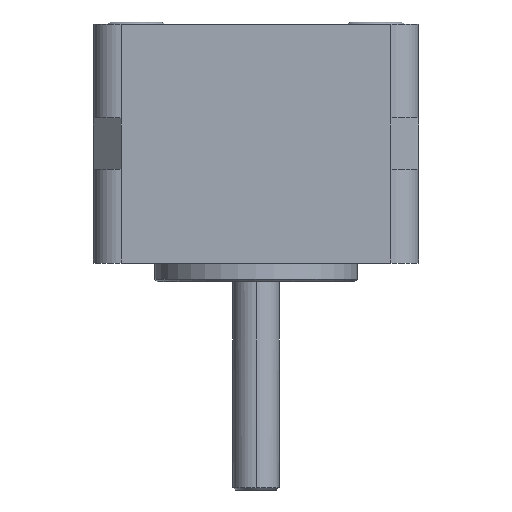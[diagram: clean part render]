
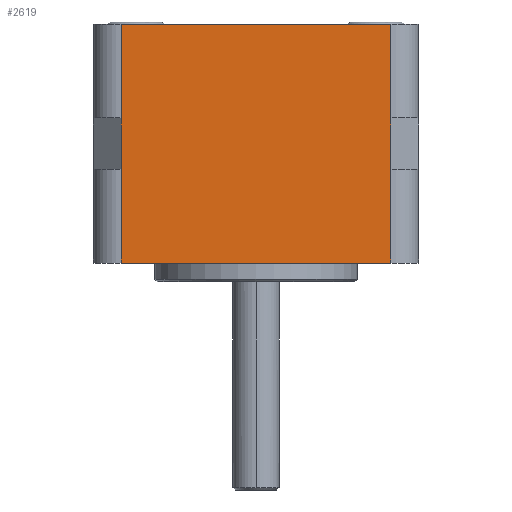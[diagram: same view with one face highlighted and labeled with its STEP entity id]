
A CAD part, front view. The second image highlights one B-rep face of the part: STEP entity #2619.
In plain terms, the highlighted planar face has unit normal (0, -1, 0).
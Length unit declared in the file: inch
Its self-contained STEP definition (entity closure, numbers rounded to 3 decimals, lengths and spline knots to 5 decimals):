
#15=DIRECTION('',(1.,0.,0.));
#16=VECTOR('',#15,1.15378);
#17=CARTESIAN_POINT('',(-0.57689,-0.695,0.));
#18=LINE('',#17,#16);
#187=DIRECTION('',(0.,0.,1.));
#188=VECTOR('',#187,0.22);
#189=CARTESIAN_POINT('',(-0.57689,-0.695,0.4));
#190=LINE('',#189,#188);
#191=DIRECTION('',(0.,0.,1.));
#192=VECTOR('',#191,0.4);
#193=CARTESIAN_POINT('',(-0.57689,-0.695,0.62));
#194=LINE('',#193,#192);
#195=DIRECTION('',(0.,0.,1.));
#196=VECTOR('',#195,0.22);
#197=CARTESIAN_POINT('',(0.57689,-0.695,0.4));
#198=LINE('',#197,#196);
#199=DIRECTION('',(0.,0.,1.));
#200=VECTOR('',#199,0.4);
#201=CARTESIAN_POINT('',(-0.57689,-0.695,0.));
#202=LINE('',#201,#200);
#242=DIRECTION('',(1.,0.,0.));
#243=VECTOR('',#242,1.15378);
#244=CARTESIAN_POINT('',(-0.57689,-0.695,1.02));
#245=LINE('',#244,#243);
#310=DIRECTION('',(0.,0.,1.));
#311=VECTOR('',#310,0.4);
#312=CARTESIAN_POINT('',(0.57689,-0.695,0.));
#313=LINE('',#312,#311);
#319=DIRECTION('',(0.,0.,1.));
#320=VECTOR('',#319,0.4);
#321=CARTESIAN_POINT('',(0.57689,-0.695,0.62));
#322=LINE('',#321,#320);
#1864=CARTESIAN_POINT('',(-0.57689,-0.695,0.));
#1865=VERTEX_POINT('',#1864);
#1866=CARTESIAN_POINT('',(0.57689,-0.695,0.));
#1867=VERTEX_POINT('',#1866);
#1880=CARTESIAN_POINT('',(-0.57689,-0.695,1.02));
#1881=VERTEX_POINT('',#1880);
#1882=CARTESIAN_POINT('',(0.57689,-0.695,1.02));
#1883=VERTEX_POINT('',#1882);
#1956=CARTESIAN_POINT('',(-0.57689,-0.695,0.4));
#1957=VERTEX_POINT('',#1956);
#1958=CARTESIAN_POINT('',(-0.57689,-0.695,0.62));
#1959=VERTEX_POINT('',#1958);
#1960=CARTESIAN_POINT('',(0.57689,-0.695,0.4));
#1961=CARTESIAN_POINT('',(0.57689,-0.695,0.62));
#1962=VERTEX_POINT('',#1960);
#1963=VERTEX_POINT('',#1961);
#2598=CARTESIAN_POINT('',(-0.57689,-0.695,0.));
#2599=DIRECTION('',(0.,-1.,0.));
#2600=DIRECTION('',(1.,0.,0.));
#2601=AXIS2_PLACEMENT_3D('',#2598,#2599,#2600);
#2602=PLANE('',#2601);
#2604=ORIENTED_EDGE('',*,*,#2603,.T.);
#2606=ORIENTED_EDGE('',*,*,#2605,.T.);
#2608=ORIENTED_EDGE('',*,*,#2607,.T.);
#2610=ORIENTED_EDGE('',*,*,#2609,.F.);
#2611=ORIENTED_EDGE('',*,*,#2589,.F.);
#2613=ORIENTED_EDGE('',*,*,#2612,.F.);
#2614=ORIENTED_EDGE('',*,*,#2369,.F.);
#2616=ORIENTED_EDGE('',*,*,#2615,.T.);
#2617=EDGE_LOOP('',(#2604,#2606,#2608,#2610,#2611,#2613,#2614,#2616));
#2618=FACE_OUTER_BOUND('',#2617,.F.);
#2619=ADVANCED_FACE('',(#2618),#2602,.T.);
#2369=EDGE_CURVE('',#1865,#1867,#18,.T.);
#2589=EDGE_CURVE('',#1962,#1963,#198,.T.);
#2603=EDGE_CURVE('',#1957,#1959,#190,.T.);
#2605=EDGE_CURVE('',#1959,#1881,#194,.T.);
#2607=EDGE_CURVE('',#1881,#1883,#245,.T.);
#2609=EDGE_CURVE('',#1963,#1883,#322,.T.);
#2612=EDGE_CURVE('',#1867,#1962,#313,.T.);
#2615=EDGE_CURVE('',#1865,#1957,#202,.T.);
